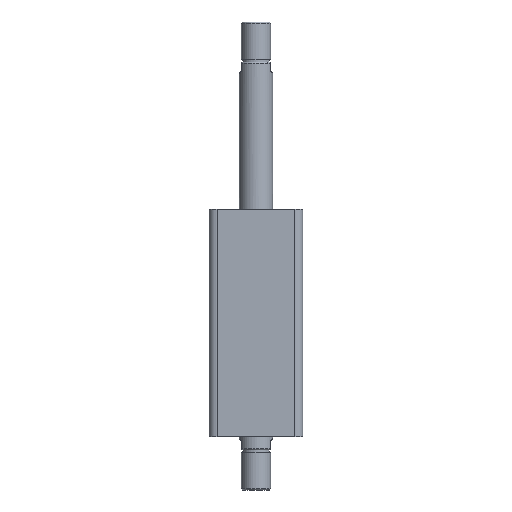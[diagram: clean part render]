
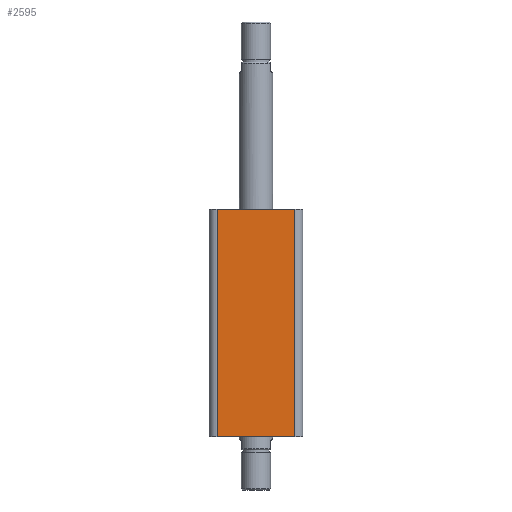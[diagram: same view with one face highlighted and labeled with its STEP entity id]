
A CAD part, front view. The second image highlights one B-rep face of the part: STEP entity #2595.
In plain terms, the highlighted planar face has unit normal (0, -1, 0).
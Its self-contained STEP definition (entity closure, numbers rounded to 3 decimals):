
#263 = EDGE_CURVE ( 'NONE', #1830, #1787, #3130, .T. ) ;
#264 = EDGE_CURVE ( 'NONE', #1830, #2941, #3132, .T. ) ;
#265 = EDGE_CURVE ( 'NONE', #2941, #2513, #3124, .T. ) ;
#266 = EDGE_CURVE ( 'NONE', #2513, #1787, #3136, .T. ) ;
#540 = CARTESIAN_POINT ( 'NONE',  ( -29., -35., 170. ) ) ;
#576 = CARTESIAN_POINT ( 'NONE',  ( 29., -35., 0. ) ) ;
#837 = CARTESIAN_POINT ( 'NONE',  ( -35., -35., 170. ) ) ;
#839 = PLANE ( 'NONE',  #1189 ) ;
#841 = DIRECTION ( 'NONE',  ( 0., 1., 0. ) ) ;
#842 = DIRECTION ( 'NONE',  ( 0., 0., 1. ) ) ;
#956 = CARTESIAN_POINT ( 'NONE',  ( -29., -35., 0. ) ) ;
#1189 = AXIS2_PLACEMENT_3D ( 'NONE', #837, #841, #842 ) ;
#1758 = CARTESIAN_POINT ( 'NONE',  ( 29., -35., 170. ) ) ;
#1787 = VERTEX_POINT ( 'NONE', #1758 ) ;
#1830 = VERTEX_POINT ( 'NONE', #540 ) ;
#1940 = ORIENTED_EDGE ( 'NONE', *, *, #263, .F. ) ;
#1941 = ORIENTED_EDGE ( 'NONE', *, *, #264, .T. ) ;
#1942 = ORIENTED_EDGE ( 'NONE', *, *, #265, .T. ) ;
#1943 = ORIENTED_EDGE ( 'NONE', *, *, #266, .T. ) ;
#2312 = FACE_OUTER_BOUND ( 'NONE', #3457, .T. ) ;
#2513 = VERTEX_POINT ( 'NONE', #576 ) ;
#2595 = ADVANCED_FACE ( 'NONE', ( #2312 ), #839, .F. ) ;
#2941 = VERTEX_POINT ( 'NONE', #956 ) ;
#3124 = LINE ( 'NONE', #3359, #3137 ) ;
#3130 = LINE ( 'NONE', #3369, #3133 ) ;
#3132 = LINE ( 'NONE', #3371, #3135 ) ;
#3133 = VECTOR ( 'NONE', #3370, 1000. ) ;
#3135 = VECTOR ( 'NONE', #3372, 1000. ) ;
#3136 = LINE ( 'NONE', #3374, #3139 ) ;
#3137 = VECTOR ( 'NONE', #3373, 1000. ) ;
#3139 = VECTOR ( 'NONE', #3375, 1000. ) ;
#3359 = CARTESIAN_POINT ( 'NONE',  ( -35., -35., 0. ) ) ;
#3369 = CARTESIAN_POINT ( 'NONE',  ( -35., -35., 170. ) ) ;
#3370 = DIRECTION ( 'NONE',  ( 1., 0., 0. ) ) ;
#3371 = CARTESIAN_POINT ( 'NONE',  ( -29., -35., 170. ) ) ;
#3372 = DIRECTION ( 'NONE',  ( 0., 0., -1. ) ) ;
#3373 = DIRECTION ( 'NONE',  ( 1., 0., 0. ) ) ;
#3374 = CARTESIAN_POINT ( 'NONE',  ( 29., -35., 170. ) ) ;
#3375 = DIRECTION ( 'NONE',  ( 0., 0., 1. ) ) ;
#3457 = EDGE_LOOP ( 'NONE', ( #1940, #1941, #1942, #1943 ) ) ;
